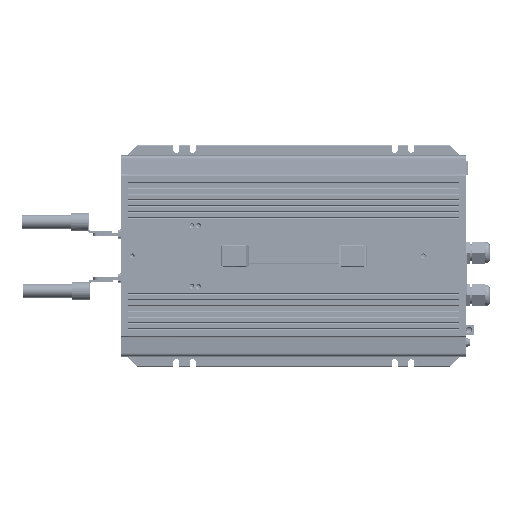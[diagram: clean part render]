
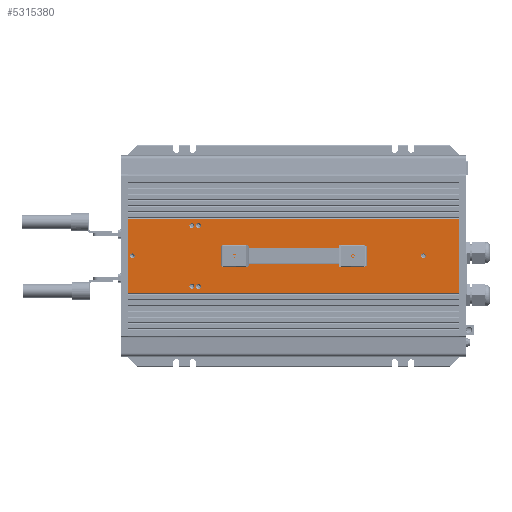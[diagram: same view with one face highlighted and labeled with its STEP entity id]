
A CAD part, top view. The second image highlights one B-rep face of the part: STEP entity #5315380.
In plain terms, the highlighted planar face has unit normal (0, 0, 1) as drawn and (0, 1, 0) by its records, which use the part's own axes.
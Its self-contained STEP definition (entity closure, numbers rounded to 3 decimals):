
#5292660=CARTESIAN_POINT('',(2078.449,98.104,-63.1));
#5292670=VERTEX_POINT('',#5292660);
#5292700=CARTESIAN_POINT('',(1988.299,98.104,-63.1));
#5292710=DIRECTION('',(1.,0.,0.));
#5292720=VECTOR('',#5292710,90.15);
#5292730=LINE('',#5292700,#5292720);
#5292740=CARTESIAN_POINT('',(1988.299,98.104,-63.1));
#5292750=VERTEX_POINT('',#5292740);
#5292760=EDGE_CURVE('',#5292750,#5292670,#5292730,.T.);
#5301640=CARTESIAN_POINT('',(1988.299,98.104,340.9));
#5301650=VERTEX_POINT('',#5301640);
#5301680=CARTESIAN_POINT('',(2078.449,98.104,340.9));
#5301690=DIRECTION('',(-1.,0.,0.));
#5301700=VECTOR('',#5301690,90.15);
#5301710=LINE('',#5301680,#5301700);
#5301720=CARTESIAN_POINT('',(2078.449,98.104,340.9));
#5301730=VERTEX_POINT('',#5301720);
#5301740=EDGE_CURVE('',#5301730,#5301650,#5301710,.T.);
#5313480=CARTESIAN_POINT('',(2030.374,98.104,296.9));
#5313490=VERTEX_POINT('',#5313480);
#5313610=CARTESIAN_POINT('',(2036.374,98.104,296.9));
#5313620=VERTEX_POINT('',#5313610);
#5313650=CARTESIAN_POINT('',(2033.374,98.104,296.9));
#5313660=DIRECTION('',(0.,-1.,0.));
#5313670=DIRECTION('',(1.,0.,0.));
#5313680=AXIS2_PLACEMENT_3D('',#5313650,#5313660,#5313670);
#5313690=CIRCLE('',#5313680,3.);
#5313700=EDGE_CURVE('',#5313620,#5313490,#5313690,.T.);
#5313990=CARTESIAN_POINT('',(2028.721,98.104,122.9));
#5314000=DIRECTION('',(0.,-1.,0.));
#5314010=DIRECTION('',(1.,0.,0.));
#5314020=AXIS2_PLACEMENT_3D('',#5313990,#5314000,#5314010);
#5314030=PLANE('',#5314020);
#5314040=CARTESIAN_POINT('',(2033.376,98.104,210.9));
#5314050=DIRECTION('',(0.,1.,0.));
#5314060=DIRECTION('',(0.,0.,1.));
#5314070=AXIS2_PLACEMENT_3D('',#5314040,#5314050,#5314060);
#5314080=CIRCLE('',#5314070,1.6);
#5314090=CARTESIAN_POINT('',(2033.376,98.104,212.5));
#5314100=VERTEX_POINT('',#5314090);
#5314110=CARTESIAN_POINT('',(2033.376,98.104,209.3));
#5314120=VERTEX_POINT('',#5314110);
#5314130=EDGE_CURVE('',#5314100,#5314120,#5314080,.T.);
#5314140=ORIENTED_EDGE('',*,*,#5314130,.F.);
#5314150=EDGE_CURVE('',#5314120,#5314100,#5314080,.T.);
#5314160=ORIENTED_EDGE('',*,*,#5314150,.F.);
#5314170=EDGE_LOOP('',(#5314160,#5314140));
#5314180=FACE_BOUND('',#5314170,.T.);
#5314190=CARTESIAN_POINT('',(1996.284,98.104,22.949
));
#5314200=DIRECTION('',(0.,1.,0.));
#5314210=DIRECTION('',(1.,0.,0.));
#5314220=AXIS2_PLACEMENT_3D('',#5314190,#5314200,#5314210);
#5314230=CIRCLE('',#5314220,3.);
#5314240=CARTESIAN_POINT('',(1996.284,98.104,19.949
));
#5314250=VERTEX_POINT('',#5314240);
#5314260=CARTESIAN_POINT('',(1993.284,98.104,22.949
));
#5314270=VERTEX_POINT('',#5314260);
#5314280=EDGE_CURVE('',#5314250,#5314270,#5314230,.T.);
#5314290=ORIENTED_EDGE('',*,*,#5314280,.F.);
#5314300=CARTESIAN_POINT('',(1999.284,98.104,22.949
));
#5314310=VERTEX_POINT('',#5314300);
#5314320=EDGE_CURVE('',#5314270,#5314310,#5314230,.T.);
#5314330=ORIENTED_EDGE('',*,*,#5314320,.F.);
#5314340=EDGE_CURVE('',#5314310,#5314250,#5314230,.T.);
#5314350=ORIENTED_EDGE('',*,*,#5314340,.F.);
#5314360=EDGE_LOOP('',(#5314350,#5314330,#5314290));
#5314370=FACE_BOUND('',#5314360,.T.);
#5314380=EDGE_CURVE('',#5313490,#5313620,#5313690,.T.);
#5314390=ORIENTED_EDGE('',*,*,#5314380,.T.);
#5314400=ORIENTED_EDGE('',*,*,#5313700,.T.);
#5314410=EDGE_LOOP('',(#5314400,#5314390));
#5314420=FACE_BOUND('',#5314410,.T.);
#5314430=CARTESIAN_POINT('',(2033.376,98.104,-57.6));
#5314440=DIRECTION('',(0.,-1.,0.));
#5314450=DIRECTION('',(-1.,0.,0.));
#5314460=AXIS2_PLACEMENT_3D('',#5314430,#5314440,#5314450);
#5314470=CIRCLE('',#5314460,3.);
#5314480=CARTESIAN_POINT('',(2030.376,98.104,
-57.6));
#5314490=VERTEX_POINT('',#5314480);
#5314500=CARTESIAN_POINT('',(2036.376,98.104,
-57.6));
#5314510=VERTEX_POINT('',#5314500);
#5314520=EDGE_CURVE('',#5314490,#5314510,#5314470,.T.);
#5314530=ORIENTED_EDGE('',*,*,#5314520,.T.);
#5314540=EDGE_CURVE('',#5314510,#5314490,#5314470,.T.);
#5314550=ORIENTED_EDGE('',*,*,#5314540,.T.);
#5314560=EDGE_LOOP('',(#5314550,#5314530));
#5314570=FACE_BOUND('',#5314560,.T.);
#5314580=CARTESIAN_POINT('',(2070.318,98.104,14.949));
#5314590=DIRECTION('',(0.,1.,0.));
#5314600=DIRECTION('',(1.,0.,0.));
#5314610=AXIS2_PLACEMENT_3D('',#5314580,#5314590,#5314600);
#5314620=CIRCLE('',#5314610,3.);
#5314630=CARTESIAN_POINT('',(2073.318,98.104,14.949));
#5314640=VERTEX_POINT('',#5314630);
#5314650=CARTESIAN_POINT('',(2067.318,98.104,14.949));
#5314660=VERTEX_POINT('',#5314650);
#5314670=EDGE_CURVE('',#5314640,#5314660,#5314620,.T.);
#5314680=ORIENTED_EDGE('',*,*,#5314670,.F.);
#5314690=EDGE_CURVE('',#5314660,#5314640,#5314620,.T.);
#5314700=ORIENTED_EDGE('',*,*,#5314690,.F.);
#5314710=EDGE_LOOP('',(#5314700,#5314680));
#5314720=FACE_BOUND('',#5314710,.T.);
#5314730=CARTESIAN_POINT('',(1996.284,98.104,14.949
));
#5314740=DIRECTION('',(0.,1.,0.));
#5314750=DIRECTION('',(1.,0.,0.));
#5314760=AXIS2_PLACEMENT_3D('',#5314730,#5314740,#5314750);
#5314770=CIRCLE('',#5314760,3.);
#5314780=CARTESIAN_POINT('',(1995.513,98.104,12.05
));
#5314790=VERTEX_POINT('',#5314780);
#5314800=CARTESIAN_POINT('',(1993.284,98.104,14.949
));
#5314810=VERTEX_POINT('',#5314800);
#5314820=EDGE_CURVE('',#5314790,#5314810,#5314770,.T.);
#5314830=ORIENTED_EDGE('',*,*,#5314820,.F.);
#5314840=CARTESIAN_POINT('',(1999.284,98.104,14.949
));
#5314850=VERTEX_POINT('',#5314840);
#5314860=EDGE_CURVE('',#5314810,#5314850,#5314770,.T.);
#5314870=ORIENTED_EDGE('',*,*,#5314860,.F.);
#5314880=EDGE_CURVE('',#5314850,#5314790,#5314770,.T.);
#5314890=ORIENTED_EDGE('',*,*,#5314880,.F.);
#5314900=EDGE_LOOP('',(#5314890,#5314870,#5314830));
#5314910=FACE_BOUND('',#5314900,.T.);
#5314920=CARTESIAN_POINT('',(2070.318,98.104,22.949));
#5314930=DIRECTION('',(0.,1.,0.));
#5314940=DIRECTION('',(1.,0.,0.));
#5314950=AXIS2_PLACEMENT_3D('',#5314920,#5314930,#5314940);
#5314960=CIRCLE('',#5314950,3.);
#5314970=CARTESIAN_POINT('',(2073.318,98.104,22.949));
#5314980=VERTEX_POINT('',#5314970);
#5314990=CARTESIAN_POINT('',(2067.318,98.104,22.949));
#5315000=VERTEX_POINT('',#5314990);
#5315010=EDGE_CURVE('',#5314980,#5315000,#5314960,.T.);
#5315020=ORIENTED_EDGE('',*,*,#5315010,.F.);
#5315030=EDGE_CURVE('',#5315000,#5314980,#5314960,.T.);
#5315040=ORIENTED_EDGE('',*,*,#5315030,.F.);
#5315050=EDGE_LOOP('',(#5315040,#5315020));
#5315060=FACE_BOUND('',#5315050,.T.);
#5315070=CARTESIAN_POINT('',(2033.376,98.104,66.9));
#5315080=DIRECTION('',(0.,1.,0.));
#5315090=DIRECTION('',(0.,0.,1.));
#5315100=AXIS2_PLACEMENT_3D('',#5315070,#5315080,#5315090);
#5315110=CIRCLE('',#5315100,1.6);
#5315120=CARTESIAN_POINT('',(2033.376,98.104,68.5));
#5315130=VERTEX_POINT('',#5315120);
#5315140=CARTESIAN_POINT('',(2033.376,98.104,65.3));
#5315150=VERTEX_POINT('',#5315140);
#5315160=EDGE_CURVE('',#5315130,#5315150,#5315110,.T.);
#5315170=ORIENTED_EDGE('',*,*,#5315160,.F.);
#5315180=EDGE_CURVE('',#5315150,#5315130,#5315110,.T.);
#5315190=ORIENTED_EDGE('',*,*,#5315180,.F.);
#5315200=EDGE_LOOP('',(#5315190,#5315170));
#5315210=FACE_BOUND('',#5315200,.T.);
#5315220=ORIENTED_EDGE('',*,*,#5292760,.F.);
#5315230=CARTESIAN_POINT('',(2078.449,98.104,-63.1));
#5315240=DIRECTION('',(0.,0.,1.));
#5315250=VECTOR('',#5315240,404.);
#5315260=LINE('',#5315230,#5315250);
#5315270=EDGE_CURVE('',#5292670,#5301730,#5315260,.T.);
#5315280=ORIENTED_EDGE('',*,*,#5315270,.F.);
#5315290=ORIENTED_EDGE('',*,*,#5301740,.F.);
#5315300=CARTESIAN_POINT('',(1988.299,98.104,340.9));
#5315310=DIRECTION('',(0.,0.,-1.));
#5315320=VECTOR('',#5315310,404.);
#5315330=LINE('',#5315300,#5315320);
#5315340=EDGE_CURVE('',#5301650,#5292750,#5315330,.T.);
#5315350=ORIENTED_EDGE('',*,*,#5315340,.F.);
#5315360=EDGE_LOOP('',(#5315350,#5315290,#5315280,#5315220));
#5315370=FACE_OUTER_BOUND('',#5315360,.T.);
#5315380=ADVANCED_FACE('',(#5314180,#5314370,#5314420,#5314570,#5314720,
#5314910,#5315060,#5315210,#5315370),#5314030,.F.);
